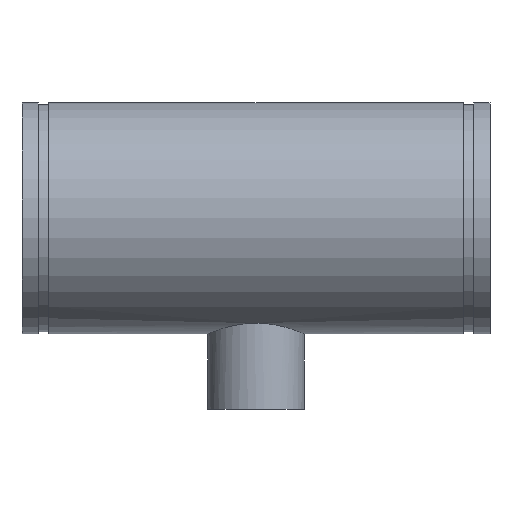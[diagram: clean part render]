
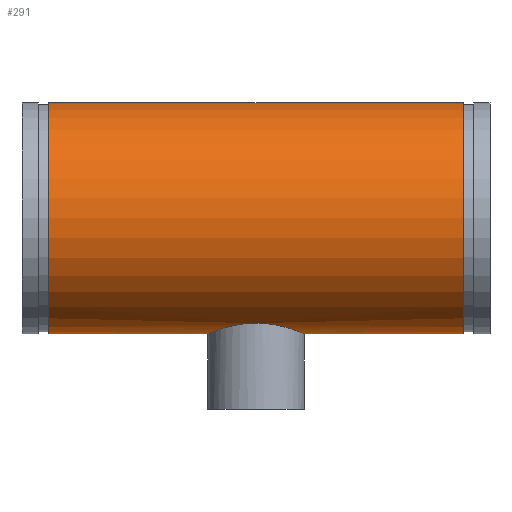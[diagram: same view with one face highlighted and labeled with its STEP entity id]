
A CAD part, top view. The second image highlights one B-rep face of the part: STEP entity #291.
In plain terms, the highlighted cylindrical face has radius 136.525 mm (diameter 273.05 mm), a full revolution.
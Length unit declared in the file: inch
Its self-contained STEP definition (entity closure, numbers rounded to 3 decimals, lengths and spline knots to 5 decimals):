
#45=B_SPLINE_CURVE_WITH_KNOTS('',3,(#511,#512,#513,#514,#515,#516,#517,
#518,#519,#520,#521,#522,#523,#524,#525,#526,#527,#528,#529,#530,#531,#532,
#533,#534,#535,#536,#537,#538,#539,#540,#541,#542,#543,#544,#545,#546,#547,
#548,#549,#550,#551,#552,#553,#554,#555,#556,#557,#558,#559,#560),
 .UNSPECIFIED.,.F.,.F.,(4,2,2,2,2,2,2,2,2,2,2,2,2,2,2,2,2,2,2,2,2,2,2,2,
4),(0.,1.09182,2.18364,3.27546,4.36728,
5.45776,6.54823,7.63871,8.72918,9.81966,
10.91013,12.0006,13.09108,14.1829,15.27472,
16.36654,17.45836,18.55018,19.642,20.73382,
21.82565,22.91612,24.00659,25.09707,26.18754),
 .UNSPECIFIED.);
#46=B_SPLINE_CURVE_WITH_KNOTS('',3,(#561,#562,#563,#564,#565,#566,#567,
#568,#569,#570,#571,#572,#573,#574,#575,#576,#577,#578),.UNSPECIFIED.,.F.,
 .F.,(4,2,2,2,2,2,2,2,4),(26.18754,27.27802,28.36849,
29.45897,30.54944,31.64126,32.73308,33.8249,
34.91672),.UNSPECIFIED.);
#51=LINE('',#508,#59);
#59=VECTOR('',#410,5.375);
#67=CYLINDRICAL_SURFACE('',#338,5.375);
#77=FACE_BOUND('',#108,.T.);
#88=FACE_OUTER_BOUND('',#107,.T.);
#107=EDGE_LOOP('',(#221,#222,#223,#224));
#108=EDGE_LOOP('',(#225,#226));
#121=CIRCLE('',#321,5.375);
#132=CIRCLE('',#337,5.375);
#141=VERTEX_POINT('',#476);
#152=VERTEX_POINT('',#505);
#153=VERTEX_POINT('',#509);
#154=VERTEX_POINT('',#510);
#165=EDGE_CURVE('',#141,#141,#121,.T.);
#178=EDGE_CURVE('',#152,#152,#132,.T.);
#179=EDGE_CURVE('',#152,#141,#51,.T.);
#180=EDGE_CURVE('',#153,#154,#45,.T.);
#181=EDGE_CURVE('',#154,#153,#46,.T.);
#221=ORIENTED_EDGE('',*,*,#178,.T.);
#222=ORIENTED_EDGE('',*,*,#179,.T.);
#223=ORIENTED_EDGE('',*,*,#165,.T.);
#224=ORIENTED_EDGE('',*,*,#179,.F.);
#225=ORIENTED_EDGE('',*,*,#180,.F.);
#226=ORIENTED_EDGE('',*,*,#181,.F.);
#291=ADVANCED_FACE('',(#88,#77),#67,.T.);
#321=AXIS2_PLACEMENT_3D('',#477,#372,#373);
#337=AXIS2_PLACEMENT_3D('',#506,#406,#407);
#338=AXIS2_PLACEMENT_3D('',#507,#408,#409);
#372=DIRECTION('center_axis',(-1.,0.,0.));
#373=DIRECTION('ref_axis',(0.,-1.,0.));
#406=DIRECTION('center_axis',(1.,0.,0.));
#407=DIRECTION('ref_axis',(0.,-1.,0.));
#408=DIRECTION('center_axis',(-1.,0.,0.));
#409=DIRECTION('ref_axis',(0.,-1.,0.));
#410=DIRECTION('',(1.,0.,0.));
#476=CARTESIAN_POINT('',(9.63,5.375,0.));
#477=CARTESIAN_POINT('Origin',(9.63,0.,0.));
#505=CARTESIAN_POINT('',(-9.63,5.375,0.));
#506=CARTESIAN_POINT('Origin',(-9.63,0.,0.));
#507=CARTESIAN_POINT('Origin',(10.88,0.,0.));
#508=CARTESIAN_POINT('',(10.88,5.375,0.));
#509=CARTESIAN_POINT('',(0.,-4.88141,-2.25));
#510=CARTESIAN_POINT('',(-2.25,-5.375,0.));
#511=CARTESIAN_POINT('Ctrl Pts',(0.,-4.88141,
-2.25));
#512=CARTESIAN_POINT('Ctrl Pts',(0.14328,-4.88141,-2.25));
#513=CARTESIAN_POINT('Ctrl Pts',(0.29079,-4.88789,-2.23609));
#514=CARTESIAN_POINT('Ctrl Pts',(0.58297,-4.91394,-2.17826));
#515=CARTESIAN_POINT('Ctrl Pts',(0.72765,-4.93346,-2.13435));
#516=CARTESIAN_POINT('Ctrl Pts',(1.00418,-4.98176,-2.01905));
#517=CARTESIAN_POINT('Ctrl Pts',(1.13628,-5.01052,-1.94756));
#518=CARTESIAN_POINT('Ctrl Pts',(1.3802,-5.0714,-1.78303));
#519=CARTESIAN_POINT('Ctrl Pts',(1.49202,-5.10347,-1.68996));
#520=CARTESIAN_POINT('Ctrl Pts',(1.68984,-5.16477,-1.49214));
#521=CARTESIAN_POINT('Ctrl Pts',(1.78289,-5.19624,-1.38038));
#522=CARTESIAN_POINT('Ctrl Pts',(1.94748,-5.25499,-1.13644));
#523=CARTESIAN_POINT('Ctrl Pts',(2.01902,-5.28221,-1.00425));
#524=CARTESIAN_POINT('Ctrl Pts',(2.1344,-5.32738,-0.72754));
#525=CARTESIAN_POINT('Ctrl Pts',(2.17832,-5.34532,-0.58277));
#526=CARTESIAN_POINT('Ctrl Pts',(2.23613,-5.36914,-0.29056));
#527=CARTESIAN_POINT('Ctrl Pts',(2.25,-5.375,-0.14311));
#528=CARTESIAN_POINT('Ctrl Pts',(2.25,-5.375,0.14311));
#529=CARTESIAN_POINT('Ctrl Pts',(2.23613,-5.36914,0.29056));
#530=CARTESIAN_POINT('Ctrl Pts',(2.17832,-5.34532,0.58277));
#531=CARTESIAN_POINT('Ctrl Pts',(2.1344,-5.32738,0.72754));
#532=CARTESIAN_POINT('Ctrl Pts',(2.01902,-5.28221,1.00425));
#533=CARTESIAN_POINT('Ctrl Pts',(1.94748,-5.25499,1.13644));
#534=CARTESIAN_POINT('Ctrl Pts',(1.78289,-5.19624,1.38038));
#535=CARTESIAN_POINT('Ctrl Pts',(1.68984,-5.16477,1.49214));
#536=CARTESIAN_POINT('Ctrl Pts',(1.49202,-5.10347,1.68996));
#537=CARTESIAN_POINT('Ctrl Pts',(1.3802,-5.0714,1.78303));
#538=CARTESIAN_POINT('Ctrl Pts',(1.13628,-5.01052,1.94756));
#539=CARTESIAN_POINT('Ctrl Pts',(1.00418,-4.98176,2.01905));
#540=CARTESIAN_POINT('Ctrl Pts',(0.72765,-4.93346,2.13435));
#541=CARTESIAN_POINT('Ctrl Pts',(0.58297,-4.91394,2.17826));
#542=CARTESIAN_POINT('Ctrl Pts',(0.29079,-4.88789,2.23609));
#543=CARTESIAN_POINT('Ctrl Pts',(0.14328,-4.88141,2.25));
#544=CARTESIAN_POINT('Ctrl Pts',(-0.14328,-4.88141,2.25));
#545=CARTESIAN_POINT('Ctrl Pts',(-0.29079,-4.88789,2.23609));
#546=CARTESIAN_POINT('Ctrl Pts',(-0.58297,-4.91394,2.17826));
#547=CARTESIAN_POINT('Ctrl Pts',(-0.72765,-4.93346,2.13435));
#548=CARTESIAN_POINT('Ctrl Pts',(-1.00418,-4.98176,2.01905));
#549=CARTESIAN_POINT('Ctrl Pts',(-1.13628,-5.01052,1.94756));
#550=CARTESIAN_POINT('Ctrl Pts',(-1.3802,-5.0714,1.78303));
#551=CARTESIAN_POINT('Ctrl Pts',(-1.49202,-5.10347,1.68996));
#552=CARTESIAN_POINT('Ctrl Pts',(-1.68984,-5.16477,1.49214));
#553=CARTESIAN_POINT('Ctrl Pts',(-1.78289,-5.19624,1.38038));
#554=CARTESIAN_POINT('Ctrl Pts',(-1.94748,-5.25499,1.13644));
#555=CARTESIAN_POINT('Ctrl Pts',(-2.01902,-5.28221,1.00425));
#556=CARTESIAN_POINT('Ctrl Pts',(-2.1344,-5.32738,0.72754));
#557=CARTESIAN_POINT('Ctrl Pts',(-2.17832,-5.34532,0.58277));
#558=CARTESIAN_POINT('Ctrl Pts',(-2.23613,-5.36914,0.29056));
#559=CARTESIAN_POINT('Ctrl Pts',(-2.25,-5.375,0.14311));
#560=CARTESIAN_POINT('Ctrl Pts',(-2.25,-5.375,0.));
#561=CARTESIAN_POINT('Ctrl Pts',(-2.25,-5.375,0.));
#562=CARTESIAN_POINT('Ctrl Pts',(-2.25,-5.375,-0.14311));
#563=CARTESIAN_POINT('Ctrl Pts',(-2.23613,-5.36914,-0.29056));
#564=CARTESIAN_POINT('Ctrl Pts',(-2.17832,-5.34532,-0.58277));
#565=CARTESIAN_POINT('Ctrl Pts',(-2.1344,-5.32738,-0.72754));
#566=CARTESIAN_POINT('Ctrl Pts',(-2.01902,-5.28221,-1.00425));
#567=CARTESIAN_POINT('Ctrl Pts',(-1.94748,-5.25499,-1.13644));
#568=CARTESIAN_POINT('Ctrl Pts',(-1.78289,-5.19624,-1.38038));
#569=CARTESIAN_POINT('Ctrl Pts',(-1.68984,-5.16477,-1.49214));
#570=CARTESIAN_POINT('Ctrl Pts',(-1.49202,-5.10347,-1.68996));
#571=CARTESIAN_POINT('Ctrl Pts',(-1.3802,-5.0714,-1.78303));
#572=CARTESIAN_POINT('Ctrl Pts',(-1.13628,-5.01052,-1.94756));
#573=CARTESIAN_POINT('Ctrl Pts',(-1.00418,-4.98176,-2.01905));
#574=CARTESIAN_POINT('Ctrl Pts',(-0.72765,-4.93346,-2.13435));
#575=CARTESIAN_POINT('Ctrl Pts',(-0.58297,-4.91394,-2.17826));
#576=CARTESIAN_POINT('Ctrl Pts',(-0.29079,-4.88789,-2.23609));
#577=CARTESIAN_POINT('Ctrl Pts',(-0.14328,-4.88141,-2.25));
#578=CARTESIAN_POINT('Ctrl Pts',(0.,-4.88141,
-2.25));
